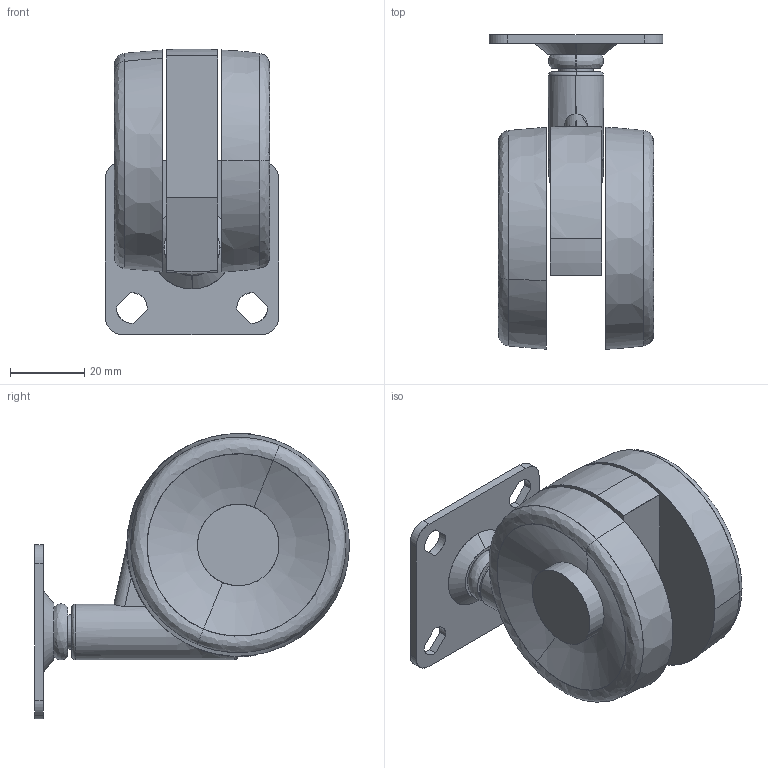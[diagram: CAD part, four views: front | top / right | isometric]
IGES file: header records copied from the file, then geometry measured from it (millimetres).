
Start section: SolidWorks IGES file using analytic representation for surfaces
Bounding box: 47 x 85 x 77.21 mm (x, y, z)
Surface area: 28794.2 mm2 (no closed solid volume)
Topology: 0 solids, 0 shells, 79 faces, 1122 edges, 1122 vertices
Faces by surface type: bspline 45, revolution 34
